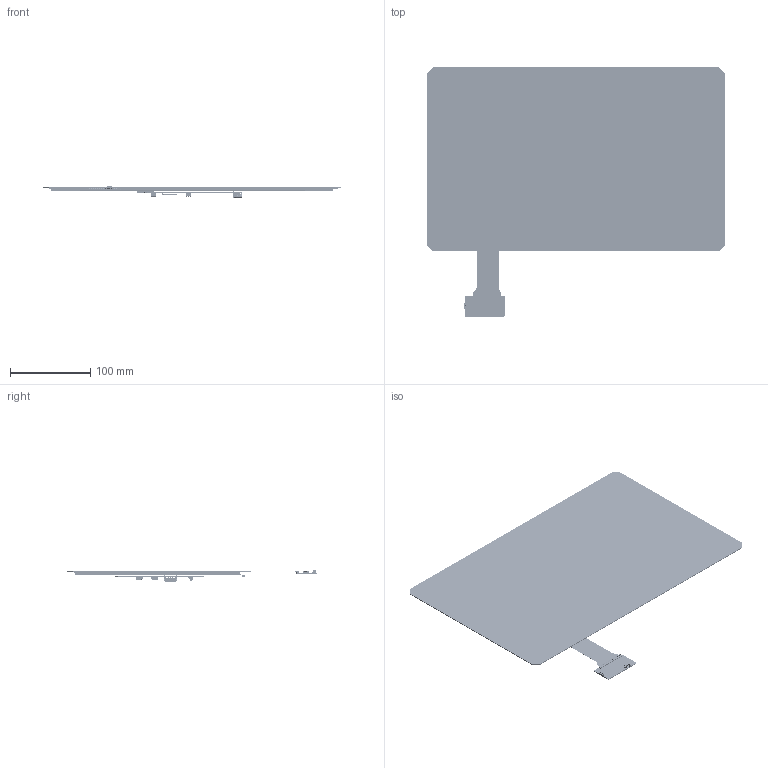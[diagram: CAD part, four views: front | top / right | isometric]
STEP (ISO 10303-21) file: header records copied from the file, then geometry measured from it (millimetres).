
FILE_DESCRIPTION(/* description */ (''),/* implementation_level */ '2;1');
FILE_NAME(/* name */ '156寸~1',/* time_stamp */ '2023-09-28T13:38:15+08:00',/* author */ (''),/* organization */ (''),/* preprocessor_version */ 'ST-DEVELOPER v16.5',/* originating_system */ '',/* authorisation */ '');
FILE_SCHEMA (('AUTOMOTIVE_DESIGN'));
Products named in the file (1): Document
Bounding box: 369.5 x 309.82 x 15.01 mm (x, y, z)
Volume: 388869.9 mm3; surface area: 538644.3 mm2
Topology: 416 solids, 650 shells, 47969 faces, 141980 edges, 94514 vertices
Faces by surface type: plane 29257, bspline 18712
Entity records: 1437798 total; most frequent: CARTESIAN_POINT 569361, ORIENTED_EDGE 282592, EDGE_CURVE 141764, B_SPLINE_CURVE_WITH_KNOTS 103101, VERTEX_POINT 94513, EDGE_LOOP 48359, ADVANCED_FACE 47969, FACE_OUTER_BOUND 47969
